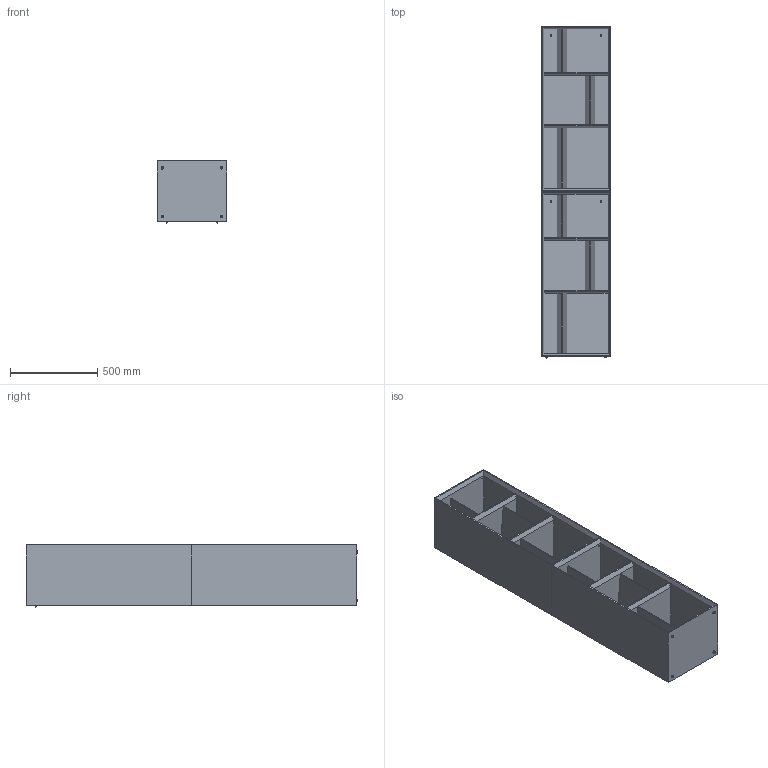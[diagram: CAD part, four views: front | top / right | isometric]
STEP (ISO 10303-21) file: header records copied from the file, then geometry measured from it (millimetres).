
FILE_DESCRIPTION (( 'STEP AP203' ), '1' );
FILE_NAME ('BL21S_Bendy Bx2_40x35x190h.STEP', '2024-08-06T08:27:45', ( '' ), ( '' ), 'SwSTEP 2.0', 'SolidWorks 2022', '' );
FILE_SCHEMA (( 'CONFIG_CONTROL_DESIGN' ));
Length unit declared in the file: millimetre
Products named in the file (9): BED000001-00-TRIANGOLO DIVISORIO_H.292; BEx00000-01-BENDY Struttura tutte le dimensioni_bendy B 40x95cm<A macchina>; Vite Legno 4,5xXX_S4.2x22; BED000001-00-TRIANGOLO DIVISORIO_H.256; BL21S_Bendy Bx2_40x35x190h; BEB00000-00-ASSIEME bendy 40x95cm_bendy B 40x95cm; M5xXXmm_M5X25mm; piedino M5; BED000001-00-TRIANGOLO DIVISORIO_H.356
Assembly tree (14 placements, depth 3):
  BL21S_Bendy Bx2_40x35x190h
    BEB00000-00-ASSIEME bendy 40x95cm_bendy B 40x95cm  x2
      BEx00000-01-BENDY Struttura tutte le dimensioni_bendy B 40x95cm<A macchina>
      BED000001-00-TRIANGOLO DIVISORIO_H.356
      BED000001-00-TRIANGOLO DIVISORIO_H.292
      BED000001-00-TRIANGOLO DIVISORIO_H.256
    Vite Legno 4,5xXX_S4.2x22  x2
    M5xXXmm_M5X25mm  x2
    piedino M5  x4
Bounding box: 400 x 1907 x 358 mm (x, y, z)
Volume: 46528712.1 mm3; surface area: 8436877.1 mm2
Topology: 32 solids, 32 shells, 706 faces, 1728 edges, 1068 vertices
Faces by surface type: plane 332, cylinder 172, cone 80, torus 66, bspline 56
Entity records: 14974 total; most frequent: CARTESIAN_POINT 6054, ORIENTED_EDGE 1624, DIRECTION 1598, EDGE_CURVE 812, AXIS2_PLACEMENT_3D 574, VERTEX_POINT 510, VECTOR 450, LINE 450
